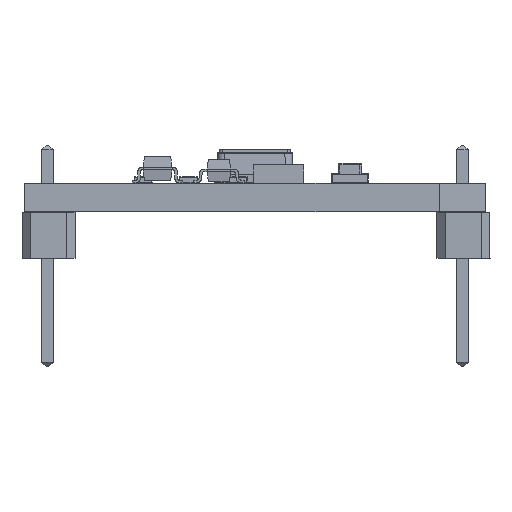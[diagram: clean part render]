
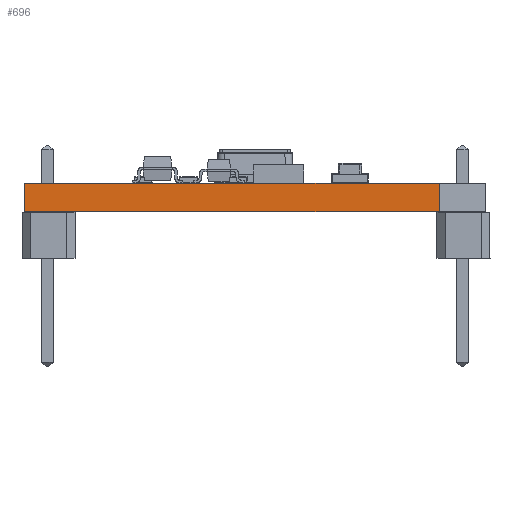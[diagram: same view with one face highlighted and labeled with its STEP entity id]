
A CAD part, front view. The second image highlights one B-rep face of the part: STEP entity #696.
In plain terms, the highlighted planar face has unit normal (0, -1, 0).
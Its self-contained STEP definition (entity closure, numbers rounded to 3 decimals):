
#671 = VERTEX_POINT('',#672);
#672 = CARTESIAN_POINT('',(21.59,-3.81,0.));
#678 = EDGE_CURVE('',#679,#671,#681,.T.);
#679 = VERTEX_POINT('',#680);
#680 = CARTESIAN_POINT('',(21.59,-3.81,-1.59));
#681 = LINE('',#682,#683);
#682 = CARTESIAN_POINT('',(21.59,-3.81,-1.59));
#683 = VECTOR('',#684,1.);
#684 = DIRECTION('',(0.,0.,1.));
#696 = ADVANCED_FACE('',(#697),#722,.T.);
#697 = FACE_BOUND('',#698,.T.);
#698 = EDGE_LOOP('',(#699,#700,#708,#716));
#699 = ORIENTED_EDGE('',*,*,#678,.T.);
#700 = ORIENTED_EDGE('',*,*,#701,.T.);
#701 = EDGE_CURVE('',#671,#702,#704,.T.);
#702 = VERTEX_POINT('',#703);
#703 = CARTESIAN_POINT('',(-1.27,-3.81,0.));
#704 = LINE('',#705,#706);
#705 = CARTESIAN_POINT('',(21.59,-3.81,0.));
#706 = VECTOR('',#707,1.);
#707 = DIRECTION('',(-1.,0.,0.));
#708 = ORIENTED_EDGE('',*,*,#709,.F.);
#709 = EDGE_CURVE('',#710,#702,#712,.T.);
#710 = VERTEX_POINT('',#711);
#711 = CARTESIAN_POINT('',(-1.27,-3.81,-1.59));
#712 = LINE('',#713,#714);
#713 = CARTESIAN_POINT('',(-1.27,-3.81,-1.59));
#714 = VECTOR('',#715,1.);
#715 = DIRECTION('',(0.,0.,1.));
#716 = ORIENTED_EDGE('',*,*,#717,.F.);
#717 = EDGE_CURVE('',#679,#710,#718,.T.);
#718 = LINE('',#719,#720);
#719 = CARTESIAN_POINT('',(21.59,-3.81,-1.59));
#720 = VECTOR('',#721,1.);
#721 = DIRECTION('',(-1.,0.,0.));
#722 = PLANE('',#723);
#723 = AXIS2_PLACEMENT_3D('',#724,#725,#726);
#724 = CARTESIAN_POINT('',(21.59,-3.81,-1.59));
#725 = DIRECTION('',(0.,-1.,0.));
#726 = DIRECTION('',(-1.,0.,0.));
